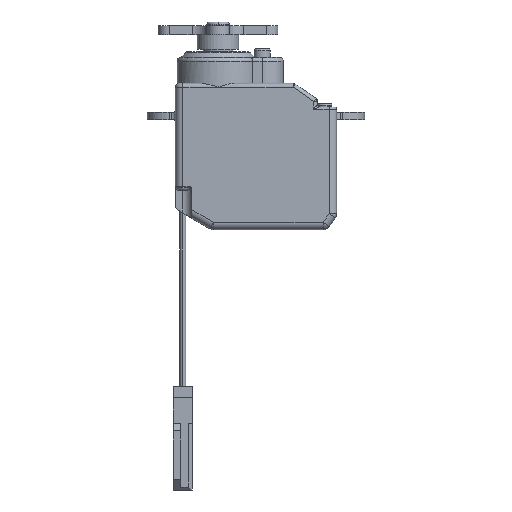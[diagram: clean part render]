
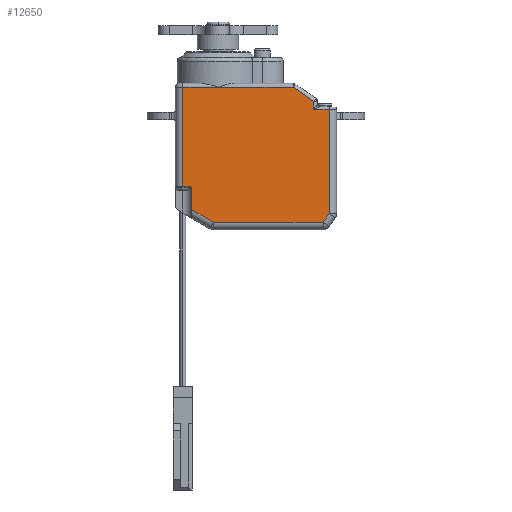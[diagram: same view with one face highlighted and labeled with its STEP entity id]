
A CAD part, left-side view. The second image highlights one B-rep face of the part: STEP entity #12650.
In plain terms, the highlighted planar face has unit normal (-1, 0, 0).
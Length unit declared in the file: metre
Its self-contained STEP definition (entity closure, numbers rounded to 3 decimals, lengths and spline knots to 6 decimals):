
#186 = DIRECTION ( 'NONE',  ( 0., 1., 0. ) ) ;
#219 = VERTEX_POINT ( 'NONE', #4890 ) ;
#330 = AXIS2_PLACEMENT_3D ( 'NONE', #6124, #10203, #186 ) ;
#551 = DIRECTION ( 'NONE',  ( 0., 0.819, 0.574 ) ) ;
#653 = DIRECTION ( 'NONE',  ( 0., 0.866, 0.5 ) ) ;
#696 = ORIENTED_EDGE ( 'NONE', *, *, #11505, .F. ) ;
#723 = EDGE_CURVE ( 'NONE', #854, #7293, #9202, .T. ) ;
#729 = EDGE_CURVE ( 'NONE', #3686, #9991, #10406, .T. ) ;
#813 = ORIENTED_EDGE ( 'NONE', *, *, #4303, .T. ) ;
#854 = VERTEX_POINT ( 'NONE', #2398 ) ;
#1093 = CARTESIAN_POINT ( 'NONE',  ( -0.0055, -0.01503, -0.0035 ) ) ;
#1122 = CARTESIAN_POINT ( 'NONE',  ( -0.0055, 0.00357, -0.0142 ) ) ;
#1130 = VERTEX_POINT ( 'NONE', #1303 ) ;
#1166 = DIRECTION ( 'NONE',  ( 0., 1., 0. ) ) ;
#1228 = CARTESIAN_POINT ( 'NONE',  ( -0.0055, -0.010152, -0.0005 ) ) ;
#1241 = CARTESIAN_POINT ( 'NONE',  ( -0.0055, -0.00513, -0.0005 ) ) ;
#1303 = CARTESIAN_POINT ( 'NONE',  ( -0.0055, -0.01293, -0.0035 ) ) ;
#1394 = CARTESIAN_POINT ( 'NONE',  ( -0.0055, -0.01421, -0.0188 ) ) ;
#1495 = ORIENTED_EDGE ( 'NONE', *, *, #729, .T. ) ;
#1545 = LINE ( 'NONE', #3806, #9081 ) ;
#1595 = LINE ( 'NONE', #4668, #8855 ) ;
#1618 = LINE ( 'NONE', #7874, #10803 ) ;
#1795 = CARTESIAN_POINT ( 'NONE',  ( -0.0055, 0.00004, -0.0005 ) ) ;
#1839 = DIRECTION ( 'NONE',  ( 0., -1., 0. ) ) ;
#1956 = CARTESIAN_POINT ( 'NONE',  ( -0.0055, -0.019983, -0.014 ) ) ;
#2056 = PLANE ( 'NONE',  #330 ) ;
#2057 = DIRECTION ( 'NONE',  ( 0., -1., 0. ) ) ;
#2398 = CARTESIAN_POINT ( 'NONE',  ( -0.0055, 0.00477, -0.0005 ) ) ;
#2506 = VECTOR ( 'NONE', #2057, 1. ) ;
#2957 = CARTESIAN_POINT ( 'NONE',  ( -0.0055, 0.00477, -0.014 ) ) ;
#3517 = ORIENTED_EDGE ( 'NONE', *, *, #7250, .T. ) ;
#3648 = EDGE_CURVE ( 'NONE', #11926, #1130, #1595, .T. ) ;
#3654 = LINE ( 'NONE', #11734, #5027 ) ;
#3663 = DIRECTION ( 'NONE',  ( 0., 0.575, -0.818 ) ) ;
#3686 = VERTEX_POINT ( 'NONE', #5732 ) ;
#3744 = VECTOR ( 'NONE', #3993, 1. ) ;
#3806 = CARTESIAN_POINT ( 'NONE',  ( -0.0055, -0.01293, -0.0019 ) ) ;
#3953 = VECTOR ( 'NONE', #3663, 1. ) ;
#3993 = DIRECTION ( 'NONE',  ( 0., 1., 0. ) ) ;
#4000 = AXIS2_PLACEMENT_3D ( 'NONE', #9080, #4123, #13142 ) ;
#4012 = LINE ( 'NONE', #4825, #12420 ) ;
#4123 = DIRECTION ( 'NONE',  ( 1., 0., 0. ) ) ;
#4303 = EDGE_CURVE ( 'NONE', #1130, #219, #1545, .T. ) ;
#4307 = EDGE_CURVE ( 'NONE', #219, #6285, #1618, .T. ) ;
#4446 = VERTEX_POINT ( 'NONE', #5066 ) ;
#4574 = ORIENTED_EDGE ( 'NONE', *, *, #5734, .T. ) ;
#4668 = CARTESIAN_POINT ( 'NONE',  ( -0.0055, -0.00513, -0.0035 ) ) ;
#4674 = LINE ( 'NONE', #11804, #3953 ) ;
#4825 = CARTESIAN_POINT ( 'NONE',  ( -0.0055, 0.00357, -0.0059 ) ) ;
#4890 = CARTESIAN_POINT ( 'NONE',  ( -0.0055, -0.01293, -0.002445 ) ) ;
#5027 = VECTOR ( 'NONE', #12849, 1. ) ;
#5066 = CARTESIAN_POINT ( 'NONE',  ( -0.0055, 0.000602, -0.0188 ) ) ;
#5121 = CARTESIAN_POINT ( 'NONE',  ( -0.0055, -0.019983, -0.0188 ) ) ;
#5443 = LINE ( 'NONE', #1241, #10305 ) ;
#5497 = EDGE_CURVE ( 'NONE', #12378, #854, #6054, .T. ) ;
#5732 = CARTESIAN_POINT ( 'NONE',  ( -0.0055, 0.00377, -0.014 ) ) ;
#5734 = EDGE_CURVE ( 'NONE', #7896, #11926, #3654, .T. ) ;
#5747 = DIRECTION ( 'NONE',  ( 0., 0., 1. ) ) ;
#5946 = DIRECTION ( 'NONE',  ( 0., 0., -1. ) ) ;
#6054 = LINE ( 'NONE', #9258, #3744 ) ;
#6124 = CARTESIAN_POINT ( 'NONE',  ( -0.0055, -0.00513, -0.0019 ) ) ;
#6198 = ORIENTED_EDGE ( 'NONE', *, *, #4307, .T. ) ;
#6285 = VERTEX_POINT ( 'NONE', #1228 ) ;
#6300 = VECTOR ( 'NONE', #653, 1. ) ;
#6979 = CARTESIAN_POINT ( 'NONE',  ( -0.0055, -0.019983, -0.030685 ) ) ;
#6987 = EDGE_CURVE ( 'NONE', #4446, #12773, #11199, .T. ) ;
#7103 = ORIENTED_EDGE ( 'NONE', *, *, #6987, .T. ) ;
#7199 = DIRECTION ( 'NONE',  ( 0., 0., -1. ) ) ;
#7250 = EDGE_CURVE ( 'NONE', #7293, #3686, #9030, .T. ) ;
#7293 = VERTEX_POINT ( 'NONE', #2957 ) ;
#7664 = EDGE_CURVE ( 'NONE', #9991, #11138, #4012, .T. ) ;
#7874 = CARTESIAN_POINT ( 'NONE',  ( -0.0055, -0.00513, 0.003017 ) ) ;
#7896 = VERTEX_POINT ( 'NONE', #10339 ) ;
#8041 = VECTOR ( 'NONE', #1839, 1. ) ;
#8051 = VECTOR ( 'NONE', #7199, 1. ) ;
#8140 = EDGE_CURVE ( 'NONE', #6285, #12378, #5443, .T. ) ;
#8322 = FACE_OUTER_BOUND ( 'NONE', #8888, .T. ) ;
#8598 = ORIENTED_EDGE ( 'NONE', *, *, #7664, .T. ) ;
#8855 = VECTOR ( 'NONE', #9808, 1. ) ;
#8888 = EDGE_LOOP ( 'NONE', ( #9155, #13052, #3517, #1495, #8598, #9459, #7103, #696, #4574, #11799, #813, #6198, #11093 ) ) ;
#9030 = LINE ( 'NONE', #1956, #8041 ) ;
#9080 = CARTESIAN_POINT ( 'NONE',  ( -0.0055, 0.00377, -0.0142 ) ) ;
#9081 = VECTOR ( 'NONE', #5747, 1. ) ;
#9155 = ORIENTED_EDGE ( 'NONE', *, *, #5497, .T. ) ;
#9202 = LINE ( 'NONE', #13069, #8051 ) ;
#9258 = CARTESIAN_POINT ( 'NONE',  ( -0.0055, -0.00513, -0.0005 ) ) ;
#9459 = ORIENTED_EDGE ( 'NONE', *, *, #11811, .F. ) ;
#9808 = DIRECTION ( 'NONE',  ( 0., 1., 0. ) ) ;
#9991 = VERTEX_POINT ( 'NONE', #1122 ) ;
#10203 = DIRECTION ( 'NONE',  ( 1., 0., 0. ) ) ;
#10305 = VECTOR ( 'NONE', #1166, 1. ) ;
#10339 = CARTESIAN_POINT ( 'NONE',  ( -0.0055, -0.01503, -0.017634 ) ) ;
#10406 = CIRCLE ( 'NONE', #4000, 0.0002 ) ;
#10803 = VECTOR ( 'NONE', #551, 1. ) ;
#10866 = LINE ( 'NONE', #6979, #6300 ) ;
#11093 = ORIENTED_EDGE ( 'NONE', *, *, #8140, .T. ) ;
#11138 = VERTEX_POINT ( 'NONE', #12902 ) ;
#11199 = LINE ( 'NONE', #5121, #2506 ) ;
#11505 = EDGE_CURVE ( 'NONE', #7896, #12773, #4674, .T. ) ;
#11734 = CARTESIAN_POINT ( 'NONE',  ( -0.0055, -0.01503, -0.0019 ) ) ;
#11799 = ORIENTED_EDGE ( 'NONE', *, *, #3648, .T. ) ;
#11804 = CARTESIAN_POINT ( 'NONE',  ( -0.0055, -0.023275, -0.0059 ) ) ;
#11811 = EDGE_CURVE ( 'NONE', #4446, #11138, #10866, .T. ) ;
#11926 = VERTEX_POINT ( 'NONE', #1093 ) ;
#12378 = VERTEX_POINT ( 'NONE', #1795 ) ;
#12420 = VECTOR ( 'NONE', #5946, 1. ) ;
#12650 = ADVANCED_FACE ( 'NONE', ( #8322 ), #2056, .F. ) ;
#12773 = VERTEX_POINT ( 'NONE', #1394 ) ;
#12849 = DIRECTION ( 'NONE',  ( 0., 0., 1. ) ) ;
#12902 = CARTESIAN_POINT ( 'NONE',  ( -0.0055, 0.00357, -0.017086 ) ) ;
#13052 = ORIENTED_EDGE ( 'NONE', *, *, #723, .T. ) ;
#13069 = CARTESIAN_POINT ( 'NONE',  ( -0.0055, 0.00477, -0.0019 ) ) ;
#13142 = DIRECTION ( 'NONE',  ( 0., -1., 0. ) ) ;
